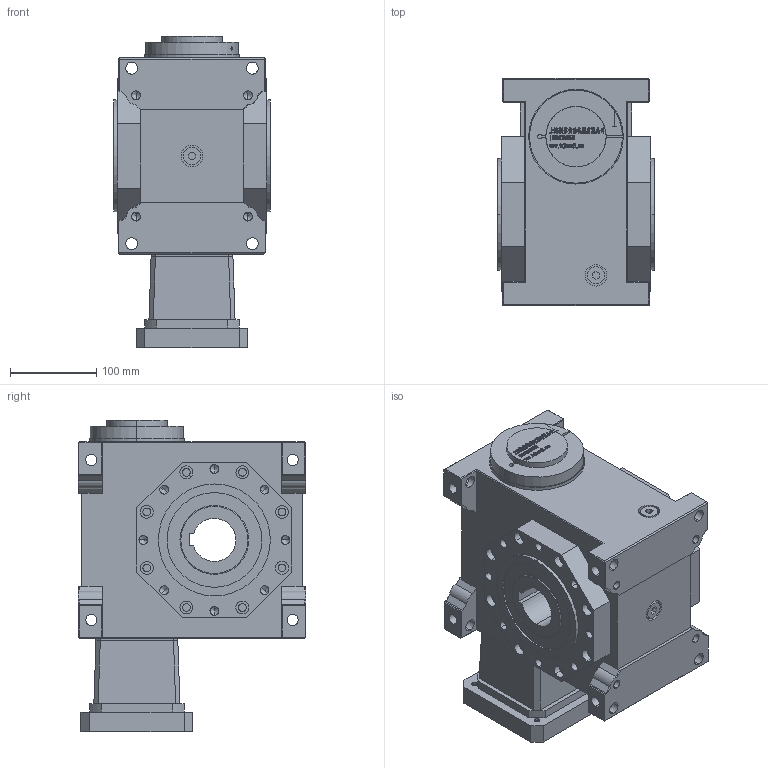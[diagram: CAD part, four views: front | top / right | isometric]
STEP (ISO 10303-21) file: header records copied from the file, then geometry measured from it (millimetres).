
FILE_DESCRIPTION (( 'STEP AP203' ), '1' );
FILE_NAME ('FXLB090-(5~90)-CR-24-110-145-M8.step', '2022-11-05T14:06:45', ( '' ), ( '' ), 'SwSTEP 2.0', 'SolidWorks 2020', '' );
FILE_SCHEMA (( 'CONFIG_CONTROL_DESIGN' ));
Length unit declared in the file: millimetre
Products named in the file (8): FXLB090-(5~90)-CR-24-110-145-M8.step; JDLB090-CR________50.step; 錨璃6^FXLB090-(5~90)-CR-24-110-145-M8; FXLB090-(5~90)-CR-24-110-145-M8; ST130-110-145-M8____________.step; JDLB090-ST110________1.step; ______BD68-73.3-28-24____.step; JDLB090-CR____.step
Assembly tree (7 placements, depth 3):
  FXLB090-(5~90)-CR-24-110-145-M8
    FXLB090-(5~90)-CR-24-110-145-M8.step
      JDLB090-CR____.step
      JDLB090-CR________50.step
      JDLB090-ST110________1.step
      ST130-110-145-M8____________.step
      ______BD68-73.3-28-24____.step
    錨璃6^FXLB090-(5~90)-CR-24-110-145-M8
Bounding box: 182 x 264 x 362.2 mm (x, y, z)
Volume: 9538347.1 mm3; surface area: 691857.2 mm2
Topology: 81 solids, 81 shells, 2579 faces, 6812 edges, 4443 vertices
Faces by surface type: plane 1507, bspline 572, cylinder 388, cone 96, torus 16
Entity records: 106311 total; most frequent: CARTESIAN_POINT 45156, ORIENTED_EDGE 13484, DIRECTION 10442, EDGE_CURVE 6742, VECTOR 4648, LINE 4648, VERTEX_POINT 4443, AXIS2_PLACEMENT_3D 2897
